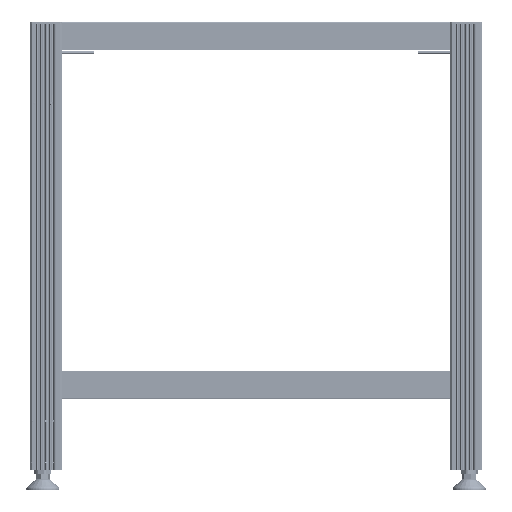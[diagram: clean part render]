
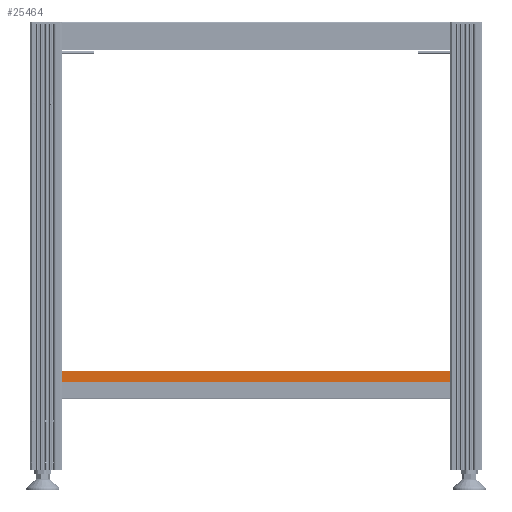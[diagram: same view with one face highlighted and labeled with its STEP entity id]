
A CAD part, front view. The second image highlights one B-rep face of the part: STEP entity #25464.
In plain terms, the highlighted planar face has unit normal (0, -1, 0) as drawn and (-1, 0, 0) by its records, which use the part's own axes.
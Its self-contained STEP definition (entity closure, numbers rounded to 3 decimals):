
#761=PLANE('',#27700);
#1912=LINE('',#38669,#4088);
#1919=LINE('',#38724,#4095);
#1963=LINE('',#38864,#4139);
#1964=LINE('',#38866,#4140);
#4088=VECTOR('',#30757,1000.);
#4095=VECTOR('',#30788,1000.);
#4139=VECTOR('',#30870,1000.);
#4140=VECTOR('',#30871,1000.);
#6633=ORIENTED_EDGE('',*,*,#14164,.T.);
#6634=ORIENTED_EDGE('',*,*,#14091,.T.);
#6635=ORIENTED_EDGE('',*,*,#14106,.T.);
#6636=ORIENTED_EDGE('',*,*,#14165,.F.);
#14091=EDGE_CURVE('',#17908,#17911,#1912,.T.);
#14106=EDGE_CURVE('',#17911,#17926,#1919,.T.);
#14164=EDGE_CURVE('',#17980,#17908,#1963,.T.);
#14165=EDGE_CURVE('',#17980,#17926,#1964,.T.);
#17908=VERTEX_POINT('',#38663);
#17911=VERTEX_POINT('',#38668);
#17926=VERTEX_POINT('',#38725);
#17980=VERTEX_POINT('',#38865);
#21635=EDGE_LOOP('',(#6633,#6634,#6635,#6636));
#23264=FACE_BOUND('',#21635,.T.);
#25464=ADVANCED_FACE('',(#23264),#761,.T.);
#27700=AXIS2_PLACEMENT_3D('',#38863,#30868,#30869);
#30757=DIRECTION('',(0.,0.,1.));
#30788=DIRECTION('',(0.,1.,0.));
#30868=DIRECTION('',(-1.,0.,0.));
#30869=DIRECTION('',(0.,0.,1.));
#30870=DIRECTION('',(0.,-1.,0.));
#30871=DIRECTION('',(0.,0.,1.));
#38663=CARTESIAN_POINT('',(0.,1.,0.));
#38668=CARTESIAN_POINT('',(0.,1.,550.));
#38669=CARTESIAN_POINT('',(0.,1.,-1.));
#38724=CARTESIAN_POINT('',(0.,0.,550.));
#38725=CARTESIAN_POINT('',(0.,16.,550.));
#38863=CARTESIAN_POINT('',(0.,0.,-1.));
#38864=CARTESIAN_POINT('',(0.,20.,0.));
#38865=CARTESIAN_POINT('',(0.,16.,0.));
#38866=CARTESIAN_POINT('',(0.,16.,-1.));
